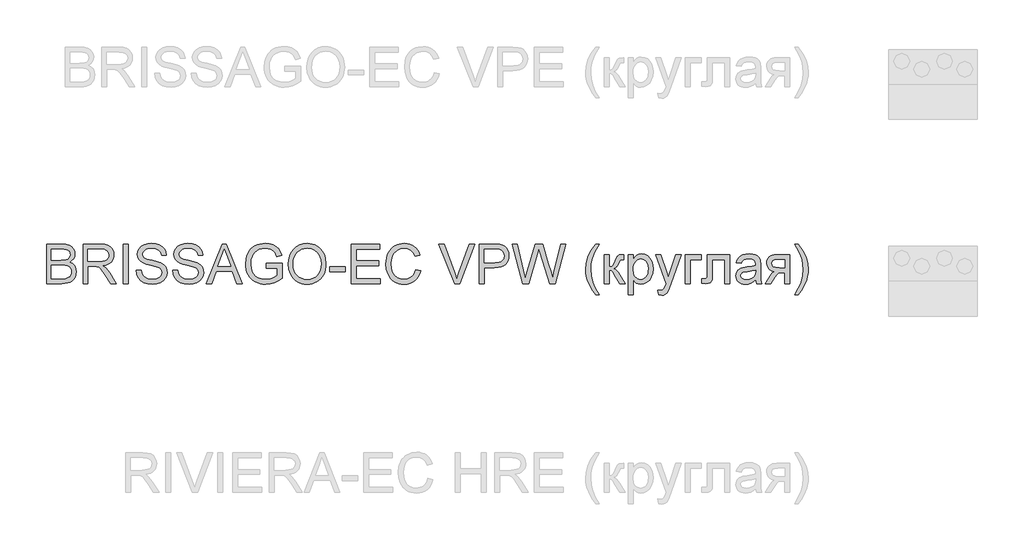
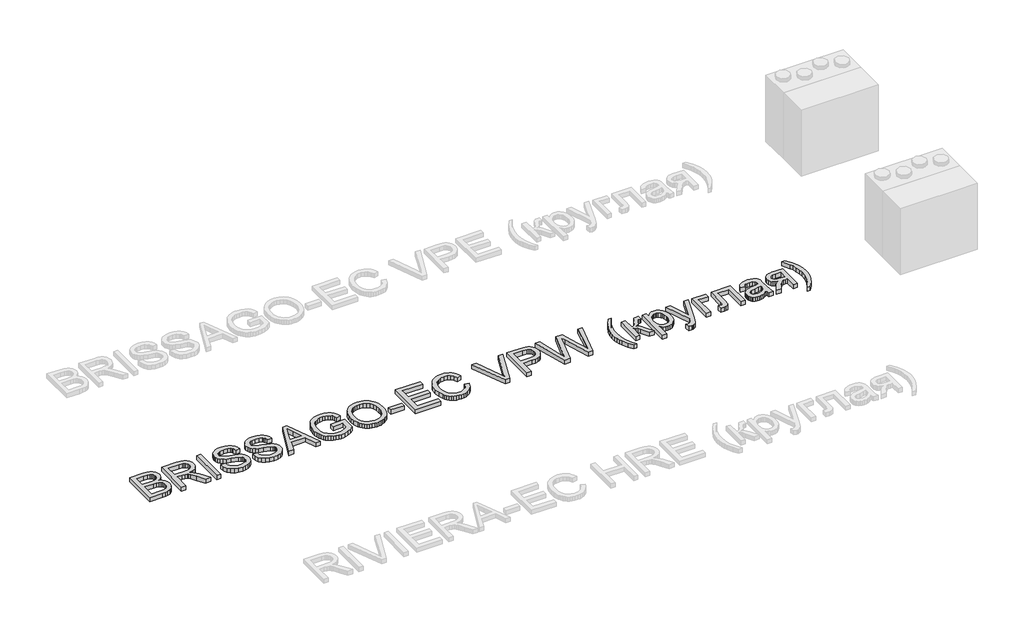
# One storey, part 5 of 28: 1 proxy.
"""IFC4 building model written with IfcOpenShell, lengths in millimetres."""

from ifc_helpers import new_model, si_unit, origin, origin_with_axes, place, context, project, spatial, polyline, outline, extrude, element, save

model = new_model("IFC4")

# Units and contexts
model_context = context("Model", 3, world=origin())
ifc_project = project(units=[si_unit("LENGTHUNIT", "METRE", prefix="MILLI")], contexts=[model_context])

# Site, building, storey
site = spatial("IfcSite", under=ifc_project)
building = spatial("IfcBuilding", under=site)
storey = spatial("IfcBuildingStorey", under=building, Name="Уровень 1", Elevation=0.0)

# Proxy
placement = place(None, origin())
element("IfcBuildingElementProxy", 1, Name="400 мм Arial", ObjectType="400 мм Arial", at=placement, inside=storey, context=model_context, shape_type="SweptSolid", body=[
    extrude(outline(polyline([(-29682.5724725, -12348.7253035), (-29682.5724725, -11946.9000629), (-29529.2392569, -11946.9000629), (-29487.0677175, -11949.8553816), (-29454.142279, -11958.7213376), (-29428.9055741, -11973.7186603), (-29409.8002358, -11995.0680788), (-29397.7704946, -12020.1821563), (-29393.7605808, -12046.4734562), (-29397.1328325, -12070.6678288), (-29407.2495873, -12093.4151988), (-29424.1844218, -12113.3176148), (-29448.0109124, -12128.977125), (-29419.5491087, -12143.8395576), (-29398.5185213, -12166.4520376), (-29385.5322869, -12195.3185115), (-29381.2035421, -12228.9429258), (-29384.1588608, -12256.9632711), (-29393.0248168, -12282.9480027), (-29406.2563059, -12305.0454479), (-29422.3082237, -12321.403934), (-29441.9653849, -12333.2497342), (-29466.0126047, -12341.809122), (-29495.2346978, -12346.9962581), (-29530.4164793, -12348.7253035), (-29682.5724725, -12348.7253035)]), holes=[polyline([(-29632.3443174, -12110.1415669), (-29540.6190733, -12110.1415669), (-29487.0554548, -12105.8250848), (-29468.3057358, -12098.3816057), (-29454.828992, -12087.2347813), (-29446.6987999, -12072.5562897), (-29443.9887359, -12054.5178092), (-29446.5148589, -12037.0066262), (-29454.093228, -12021.7517862), (-29466.3804867, -12009.8446722), (-29483.0332783, -12002.3766677), (-29508.5888143, -11998.4403304), (-29547.5843058, -11997.1282179), (-29632.3443174, -11997.1282179), (-29632.3443174, -12110.1415669)]), polyline([(-29632.3443174, -12298.4971484), (-29529.3373588, -12298.4971484), (-29492.0586499, -12296.5351111), (-29460.5189002, -12285.5967531), (-29448.9428801, -12276.1667113), (-29439.6232029, -12263.2785787), (-29433.4795736, -12247.5087039), (-29431.4316971, -12229.4334352), (-29433.8351928, -12208.439636), (-29441.04568, -12190.3888927), (-29453.6395069, -12176.2744869), (-29472.1930222, -12167.0896997), (-29498.4720594, -12162.0497164), (-29534.2424521, -12160.3697219), (-29632.3443174, -12160.3697219), (-29632.3443174, -12298.4971484)])]), origin_with_axes(), (0.0, 0.0, 1.0), 50.0),
    extrude(outline(polyline([(-29312.1398288, -12348.7253035), (-29312.1398288, -11946.9000629), (-29138.9900364, -11946.9000629), (-29092.4529641, -11949.6101269), (-29058.5955578, -11957.740319), (-29033.8493622, -11972.7499044), (-29014.6459221, -11996.0981484), (-29002.3218752, -12025.0504614), (-28998.2138596, -12056.872254), (-28999.9153139, -12077.5104339), (-29005.0196765, -12096.4563566), (-29013.5269477, -12113.7100222), (-29025.4371273, -12129.2714306), (-29040.9034995, -12142.6439411), (-29060.0793485, -12153.3309131), (-29082.9646743, -12161.3323465), (-29109.5594768, -12166.6482413), (-29081.011834, -12188.1325498), (-29040.2995599, -12239.8322329), (-28973.2959858, -12348.7253035), (-29031.6665957, -12348.7253035), (-29083.95489, -12265.4368198), (-29121.7241081, -12210.3035714), (-29135.7649376, -12194.2271282), (-29148.2606627, -12184.2575262), (-29172.1484669, -12174.6925943), (-29201.284721, -12172.9267607), (-29261.9116738, -12172.9267607), (-29261.9116738, -12348.7253035), (-29312.1398288, -12348.7253035)]), holes=[polyline([(-29261.9116738, -12122.6986056), (-29149.486936, -12122.6986056), (-29117.1991596, -12120.9205093), (-29092.1463957, -12115.5862204), (-29073.2863121, -12106.3401196), (-29059.5765764, -12092.8265876), (-29051.2256551, -12076.4803643), (-29048.4420147, -12058.7361894), (-29053.7517782, -12034.2352485), (-29069.6810686, -12014.4922481), (-29081.8426342, -12006.8954849), (-29097.0882772, -12001.4692255), (-29136.8317954, -11997.1282179), (-29261.9116738, -11997.1282179), (-29261.9116738, -12122.6986056)])]), origin_with_axes(), (0.0, 0.0, 1.0), 50.0),
    extrude(outline(polyline([(-28904.0360689, -12348.7253035), (-28904.0360689, -11946.9000629), (-28853.8079138, -11946.9000629), (-28853.8079138, -12348.7253035), (-28904.0360689, -12348.7253035)])), origin_with_axes(), (0.0, 0.0, 1.0), 50.0),
    extrude(outline(polyline([(-28772.1871618, -12210.597877), (-28721.9590067, -12210.597877), (-28716.1955221, -12238.4710695), (-28705.7721989, -12260.875083), (-28689.5118147, -12278.6560461), (-28666.2371472, -12292.6600874), (-28637.7876062, -12301.7467727), (-28606.0026018, -12304.7756678), (-28578.0190447, -12302.4825367), (-28553.5181039, -12295.6031434), (-28533.6647388, -12284.7138363), (-28519.6239094, -12270.390964), (-28511.2729881, -12253.9466388), (-28508.4893476, -12236.6929732), (-28510.5740123, -12219.880766), (-28516.8280062, -12205.3494272), (-28529.5321978, -12192.951804), (-28550.9674554, -12182.5407435), (-28624.102396, -12163.3618288), (-28672.1109964, -12150.6699), (-28702.829143, -12138.5911078), (-28727.8328559, -12121.6930615), (-28745.5525053, -12101.2142971), (-28756.1107186, -12077.596273), (-28759.630123, -12051.2804476), (-28755.2768527, -12021.8621508), (-28742.2170419, -11994.4304166), (-28720.7940471, -11971.1802746), (-28691.3512247, -11954.3067537), (-28656.0100277, -11944.042846), (-28616.8919089, -11940.6215435), (-28574.511903, -11944.2022616), (-28537.4293979, -11954.9444158), (-28506.9687687, -11972.6272771), (-28484.4543906, -11997.0301161), (-28470.2050947, -12026.632354), (-28464.539712, -12059.9134118), (-28514.767867, -12059.9134118), (-28523.9894424, -12029.9432919), (-28532.3526264, -12018.0852289), (-28543.217408, -12008.3118306), (-28573.2611043, -11995.2152316), (-28614.9298716, -11990.8496986), (-28657.5796576, -11995.1661806), (-28673.8829613, -12000.5617832), (-28686.8385389, -12008.1156269), (-28703.7611107, -12027.1719142), (-28709.4019679, -12049.8089197), (-28705.4043169, -12069.1104617), (-28693.4113639, -12084.6350819), (-28665.0599248, -12098.5164958), (-28611.3982044, -12112.6922154), (-28556.0197014, -12126.1566964), (-28522.5179144, -12137.9043948), (-28493.8844324, -12156.1268163), (-28473.9084401, -12178.6166689), (-28462.1730045, -12205.128698), (-28458.2611926, -12235.417649), (-28462.7616156, -12266.3810502), (-28476.2628849, -12295.5050415), (-28498.2131772, -12320.5700681), (-28528.0606698, -12339.3565753), (-28563.9536898, -12351.092011), (-28604.0405645, -12355.0038229), (-28653.2509127, -12350.7854426), (-28693.7547204, -12338.130302), (-28726.0179714, -12316.98935), (-28750.5066495, -12287.3135357), (-28766.2274735, -12251.1629983), (-28772.1871618, -12210.597877)])), origin_with_axes(), (0.0, 0.0, 1.0), 50.0),
    extrude(outline(polyline([(-28401.7545181, -12210.597877), (-28351.526363, -12210.597877), (-28345.7628784, -12238.4710695), (-28335.3395552, -12260.875083), (-28319.0791711, -12278.6560461), (-28295.8045035, -12292.6600874), (-28267.3549625, -12301.7467727), (-28235.5699582, -12304.7756678), (-28207.5864011, -12302.4825367), (-28183.0854602, -12295.6031434), (-28163.2320952, -12284.7138363), (-28149.1912657, -12270.390964), (-28140.8403444, -12253.9466388), (-28138.056704, -12236.6929732), (-28140.1413686, -12219.880766), (-28146.3953625, -12205.3494272), (-28159.0995541, -12192.951804), (-28180.5348117, -12182.5407435), (-28253.6697523, -12163.3618288), (-28301.6783527, -12150.6699), (-28332.3964993, -12138.5911078), (-28357.4002122, -12121.6930615), (-28375.1198617, -12101.2142971), (-28385.6780749, -12077.596273), (-28389.1974793, -12051.2804476), (-28384.8442091, -12021.8621508), (-28371.7843982, -11994.4304166), (-28350.3614034, -11971.1802746), (-28320.918581, -11954.3067537), (-28285.577384, -11944.042846), (-28246.4592652, -11940.6215435), (-28204.0792594, -11944.2022616), (-28166.9967543, -11954.9444158), (-28136.5361251, -11972.6272771), (-28114.0217469, -11997.0301161), (-28099.772451, -12026.632354), (-28094.1070683, -12059.9134118), (-28144.3352234, -12059.9134118), (-28153.5567987, -12029.9432919), (-28161.9199827, -12018.0852289), (-28172.7847643, -12008.3118306), (-28202.8284606, -11995.2152316), (-28244.4972279, -11990.8496986), (-28287.1470139, -11995.1661806), (-28303.4503176, -12000.5617832), (-28316.4058952, -12008.1156269), (-28333.328467, -12027.1719142), (-28338.9693243, -12049.8089197), (-28334.9716733, -12069.1104617), (-28322.9787202, -12084.6350819), (-28294.6272811, -12098.5164958), (-28240.9655608, -12112.6922154), (-28185.5870577, -12126.1566964), (-28152.0852707, -12137.9043948), (-28123.4517888, -12156.1268163), (-28103.4757964, -12178.6166689), (-28091.7403608, -12205.128698), (-28087.8285489, -12235.417649), (-28092.328972, -12266.3810502), (-28105.8302412, -12295.5050415), (-28127.7805336, -12320.5700681), (-28157.6280261, -12339.3565753), (-28193.5210461, -12351.092011), (-28233.6079208, -12355.0038229), (-28282.8182691, -12350.7854426), (-28323.3220767, -12338.130302), (-28355.5853277, -12316.98935), (-28380.0740059, -12287.3135357), (-28395.7948298, -12251.1629983), (-28401.7545181, -12210.597877)])), origin_with_axes(), (0.0, 0.0, 1.0), 50.0),
    extrude(outline(polyline([(-28059.2809061, -12348.7253035), (-27898.8843562, -11946.9000629), (-27856.1119429, -11946.9000629), (-27695.715393, -12348.7253035), (-27748.7885021, -12348.7253035), (-27794.798277, -12223.1549158), (-27960.2961239, -12223.1549158), (-28006.2077969, -12348.7253035), (-28059.2809061, -12348.7253035)]), holes=[polyline([(-27941.8529732, -12172.9267607), (-27813.1433258, -12172.9267607), (-27849.3429142, -12074.1381823), (-27877.4981495, -11997.1282179), (-27902.5141252, -12065.5052181), (-27941.8529732, -12172.9267607)])]), origin_with_axes(), (0.0, 0.0, 1.0), 50.0),
    extrude(outline(polyline([(-27453.6980911, -12191.7623189), (-27453.6980911, -12141.5341638), (-27290.4565871, -12141.5341638), (-27290.4565871, -12291.7281197), (-27330.1265289, -12319.3192693), (-27371.0472695, -12339.1113207), (-27413.120707, -12351.0306973), (-27456.2487396, -12355.0038229), (-27485.099885, -12353.424996), (-27512.5959985, -12348.6885153), (-27538.7370799, -12340.7943808), (-27563.5231294, -12329.7425925), (-27586.1540034, -12315.6986973), (-27605.8295588, -12298.8282422), (-27622.5497955, -12279.131227), (-27636.3147135, -12256.6076519), (-27647.0660648, -12231.9779523), (-27654.7456014, -12205.9625639), (-27659.3533234, -12178.5614866), (-27660.8892308, -12149.7747205), (-27654.7701269, -12093.1822069), (-27647.1212471, -12066.3666751), (-27636.4128153, -12040.5382934), (-27622.834904, -12016.8313645), (-27606.5775855, -11996.3801912), (-27587.6408598, -11979.1847736), (-27566.0247269, -11965.2451117), (-27542.1982364, -11954.4723006), (-27516.6304377, -11946.7774355), (-27489.3213309, -11942.1605165), (-27460.2709161, -11940.6215435), (-27418.8964543, -11944.1899988), (-27381.6913219, -11954.8953649), (-27350.3600386, -11971.9650895), (-27326.6071245, -11994.6266204), (-27309.0346278, -12023.9713409), (-27296.2445971, -12061.0906342), (-27342.5486776, -12074.1381823), (-27352.8861617, -12047.6629413), (-27365.4554632, -12027.686949), (-27382.0837293, -12012.6283127), (-27404.5981075, -12000.9051398), (-27431.4412304, -11993.3635589), (-27461.055731, -11990.8496986), (-27495.7224777, -11993.5597626), (-27525.3615037, -12001.6899547), (-27549.8624446, -12014.222468), (-27569.1149357, -12030.1394956), (-27583.8915292, -12048.6194345), (-27594.9647772, -12068.8406815), (-27606.7370011, -12106.7570525), (-27610.6610757, -12147.7145813), (-27605.9399234, -12195.7477071), (-27591.7764666, -12235.2704962), (-27568.5999009, -12266.0009055), (-27536.839422, -12287.6568923), (-27499.6710777, -12300.4959739), (-27460.2709161, -12304.7756678), (-27425.481542, -12301.550569), (-27391.5505594, -12291.8752725), (-27362.0832115, -12278.5456815), (-27340.6847422, -12264.3576992), (-27340.6847422, -12191.7623189), (-27453.6980911, -12191.7623189)])), origin_with_axes(), (0.0, 0.0, 1.0), 50.0),
    extrude(outline(polyline([(-27227.6713932, -12153.1101839), (-27224.3236671, -12105.9783689), (-27214.2804886, -12064.2544193), (-27197.5418578, -12027.938335), (-27174.1077747, -11997.0301161), (-27145.3823223, -11972.3513656), (-27112.7695834, -11954.7236866), (-27076.2695581, -11944.1470793), (-27035.8822464, -11940.6215435), (-27008.8490511, -11942.2770125), (-26983.1770192, -11947.2434194), (-26958.8661507, -11955.5207643), (-26935.9164456, -11967.1090471), (-26914.9716973, -11981.65878), (-26896.6756994, -11998.8204751), (-26881.0284519, -12018.5941324), (-26868.0299548, -12040.9797518), (-26857.815098, -12065.4684299), (-26850.5187718, -12091.5512634), (-26844.6817108, -12148.4993962), (-26846.2176181, -12178.1568164), (-26850.8253401, -12206.2078185), (-26858.5048768, -12232.6524026), (-26869.2562281, -12257.4905687), (-26882.8249423, -12280.0662604), (-26898.9565678, -12299.7234217), (-26917.6511045, -12316.4620525), (-26938.9085525, -12330.2821528), (-26961.8919801, -12341.0978834), (-26985.7644559, -12348.8234053), (-27010.5259799, -12353.4587185), (-27036.176552, -12355.0038229), (-27063.6818625, -12353.2962373), (-27089.6911196, -12348.1734805), (-27114.2043232, -12339.6355525), (-27137.2214734, -12327.6824533), (-27158.1416961, -12312.7771012), (-27176.3641176, -12295.3824142), (-27191.8887378, -12275.4983923), (-27204.7155567, -12253.1250357), (-27221.9324341, -12204.5032986), (-27227.6713932, -12153.1101839)]), holes=[polyline([(-27177.4432382, -12153.6006932), (-27174.9324435, -12186.9001452), (-27167.4000597, -12216.4594635), (-27154.8460866, -12242.2786482), (-27137.2705243, -12264.3576992), (-27115.9057774, -12282.0405605), (-27091.9842507, -12294.6711756), (-27065.5059441, -12302.2495447), (-27036.4708576, -12304.7756678), (-27006.9391304, -12302.2250193), (-26980.1481241, -12294.5730738), (-26956.0978387, -12281.8198313), (-26934.7882741, -12263.9652918), (-26917.3414705, -12241.4202568), (-26904.8794679, -12214.595528), (-26897.4022664, -12183.4911053), (-26894.9098659, -12148.1069888), (-26899.177297, -12103.6423183), (-26911.9795904, -12065.2109125), (-26932.9856524, -12033.7815274), (-26961.864389, -12010.3229188), (-26996.7028139, -11995.7180036), (-27035.5879408, -11990.8496986), (-27063.6144175, -11993.1949463), (-27089.6175432, -12000.2306894), (-27113.5973179, -12011.956928), (-27135.5537416, -12028.3736621), (-27153.8803964, -12050.2718378), (-27166.970864, -12078.4424016), (-27174.8251446, -12112.8853534), (-27177.4432382, -12153.6006932)])]), origin_with_axes(), (0.0, 0.0, 1.0), 50.0),
    extrude(outline(polyline([(-26807.0105945, -12229.4334352), (-26807.0105945, -12179.2052801), (-26650.0476099, -12179.2052801), (-26650.0476099, -12229.4334352), (-26807.0105945, -12229.4334352)])), origin_with_axes(), (0.0, 0.0, 1.0), 50.0),
    extrude(outline(polyline([(-26587.262416, -12348.7253035), (-26587.262416, -11946.9000629), (-26298.4505244, -11946.9000629), (-26298.4505244, -11997.1282179), (-26537.034261, -11997.1282179), (-26537.034261, -12116.4200862), (-26311.0075631, -12116.4200862), (-26311.0075631, -12166.6482413), (-26537.034261, -12166.6482413), (-26537.034261, -12298.4971484), (-26292.172005, -12298.4971484), (-26292.172005, -12348.7253035), (-26587.262416, -12348.7253035)])), origin_with_axes(), (0.0, 0.0, 1.0), 50.0),
    extrude(outline(polyline([(-25934.2964001, -12205.8889875), (-25884.068245, -12218.8384337), (-25894.0071902, -12250.0746808), (-25907.2448107, -12277.3684591), (-25923.7811064, -12300.7197688), (-25943.6160773, -12320.1286097), (-25966.3021336, -12335.3865155), (-25991.3916857, -12346.2850196), (-26018.8847335, -12352.824122), (-26048.781277, -12355.0038229), (-26079.4105187, -12353.3544852), (-26107.0415223, -12348.4064724), (-26131.6742875, -12340.1597843), (-26153.3088145, -12328.6144211), (-26172.2424745, -12313.9420608), (-26188.7726389, -12296.3143819), (-26202.8993075, -12275.7313843), (-26214.6224804, -12252.1930679), (-26230.404618, -12200.3217066), (-26235.6653305, -12144.7715253), (-26229.7179049, -12086.1801862), (-26222.2836229, -12059.882755), (-26211.8756282, -12035.5841492), (-26198.7269125, -12013.6859734), (-26183.0704679, -11994.5898322), (-26164.9062944, -11978.2957255), (-26144.234392, -11964.8036533), (-26121.7568021, -11954.2239803), (-26098.1755662, -11946.6670709), (-26047.7021564, -11940.6215435), (-26018.9736383, -11942.5774494), (-25992.6302218, -11948.4451672), (-25968.6719068, -11958.224697), (-25947.0986935, -11971.9160385), (-25928.266201, -11989.1574414), (-25912.5300487, -12009.5871548), (-25899.8902365, -12033.2051789), (-25890.3467644, -12060.0115137), (-25940.5749194, -12071.9799412), (-25957.9880005, -12035.3511572), (-25981.7777029, -12010.224817), (-26012.2383321, -11995.6934782), (-26049.6641937, -11990.8496986), (-26092.804489, -11996.2207757), (-26111.486763, -12002.9346221), (-26128.2437879, -12012.3340071), (-26155.1359618, -12037.4971355), (-26172.634882, -12070.0179039), (-26182.2366021, -12106.781578), (-26185.4371754, -12144.6734235), (-26181.6479909, -12191.0756058), (-26170.2804372, -12231.1992687), (-26150.9053188, -12263.5115707), (-26123.09344, -12286.4796699), (-26089.7510685, -12300.2016683), (-26053.7844721, -12304.7756678), (-26031.94761, -12303.2183007), (-26011.8581874, -12298.5461993), (-25993.5162042, -12290.7593638), (-25976.9216606, -12279.857794), (-25962.4669638, -12265.8905409), (-25950.5445215, -12248.9066554), (-25941.1543336, -12228.9061376), (-25934.2964001, -12205.8889875)])), origin_with_axes(), (0.0, 0.0, 1.0), 50.0),
    extrude(outline(polyline([(-25539.33829, -12348.7253035), (-25699.2443306, -11946.9000629), (-25645.4845084, -11946.9000629), (-25538.4553733, -12236.3986676), (-25516.774861, -12301.6364081), (-25495.3886543, -12236.3986676), (-25388.0652136, -11946.9000629), (-25334.3053914, -11946.9000629), (-25487.4424033, -12348.7253035), (-25539.33829, -12348.7253035)])), origin_with_axes(), (0.0, 0.0, 1.0), 50.0),
    extrude(outline(polyline([(-25287.6089035, -12348.7253035), (-25287.6089035, -11946.9000629), (-25138.6902718, -11946.9000629), (-25078.6519302, -11950.7260356), (-25051.8823837, -11957.8752091), (-25029.8462522, -11969.5125428), (-25012.1020773, -11986.1653345), (-24998.2084006, -12008.3608815), (-24989.2320799, -12034.5418169), (-24986.239973, -12063.1507733), (-24988.2602583, -12087.8172611), (-24994.3211142, -12110.5094489), (-25004.4225406, -12131.2273366), (-25018.5645377, -12149.9709242), (-25037.97951, -12165.5078071), (-25063.8998622, -12176.6055807), (-25096.3255944, -12183.2642448), (-25135.2567065, -12185.4837995), (-25237.3807484, -12185.4837995), (-25237.3807484, -12348.7253035), (-25287.6089035, -12348.7253035)]), holes=[polyline([(-25237.3807484, -12135.2556444), (-25132.3136506, -12135.2556444), (-25087.7754037, -12130.6448567), (-25071.171663, -12124.8813721), (-25058.3448441, -12116.8124937), (-25048.7737808, -12106.6528193), (-25041.9373071, -12094.6169467), (-25036.4681281, -12064.9166069), (-25039.6932269, -12042.3531779), (-25049.3685234, -12023.321416), (-25064.2922697, -12008.9985437), (-25083.2627179, -12000.5617832), (-25133.490873, -11997.1282179), (-25237.3807484, -11997.1282179), (-25237.3807484, -12135.2556444)])]), origin_with_axes(), (0.0, 0.0, 1.0), 50.0),
    extrude(outline(polyline([(-24845.2675925, -12348.7253035), (-24954.8473761, -11946.9000629), (-24903.0495912, -11946.9000629), (-24839.4795824, -12210.9902845), (-24819.8592093, -12292.5129346), (-24798.8654101, -12220.4080635), (-24719.2066955, -11946.9000629), (-24644.5511759, -11946.9000629), (-24586.6710753, -12145.1639328), (-24561.8758289, -12218.7403318), (-24543.6043564, -12292.5129346), (-24524.5725945, -12213.3447292), (-24460.4139746, -11946.9000629), (-24408.6161897, -11946.9000629), (-24518.2940752, -12348.7253035), (-24571.9557955, -12348.7253035), (-24668.2918273, -12038.7234089), (-24681.7317829, -11995.4604862), (-24696.8394702, -12047.5525767), (-24784.6406397, -12348.7253035), (-24845.2675925, -12348.7253035)])), origin_with_axes(), (0.0, 0.0, 1.0), 50.0),
    extrude(outline(polyline([(-24107.2472592, -12461.7386524), (-24146.1691743, -12407.1204388), (-24178.5673153, -12343.9183121), (-24191.3144265, -12309.864702), (-24200.4195059, -12275.1979554), (-24205.8825535, -12239.918072), (-24207.7035694, -12204.025052), (-24202.2589158, -12141.6077402), (-24185.9249552, -12081.8882296), (-24153.5022887, -12014.2469935), (-24107.2472592, -11946.9000629), (-24069.5761429, -11946.9000629), (-24116.5669364, -12026.4606757), (-24132.6065914, -12064.2298939), (-24144.8202737, -12103.5687419), (-24154.3116291, -12153.8214224), (-24157.4754143, -12204.3193576), (-24151.9817098, -12268.7109695), (-24135.5005964, -12333.0780559), (-24108.0320741, -12397.4206169), (-24069.5761429, -12461.7386524), (-24107.2472592, -12461.7386524)])), origin_with_axes(), (0.0, 0.0, 1.0), 50.0),
    extrude(outline(polyline([(-24019.3479878, -12053.6348924), (-23969.1198328, -12053.6348924), (-23969.1198328, -12179.2052801), (-23948.6901193, -12176.9489372), (-23935.4708929, -12170.1799085), (-23923.7722455, -12152.5215727), (-23907.9042688, -12117.5973086), (-23884.9974832, -12072.2251959), (-23875.5551787, -12063.0649342), (-23864.7884989, -12057.4608652), (-23828.0493503, -12053.6348924), (-23818.4353675, -12053.6348924), (-23818.4353675, -12104.1573531), (-23831.973425, -12103.8630475), (-23847.6697234, -12105.1874227), (-23856.4988913, -12109.1605482), (-23873.7648196, -12142.2208768), (-23884.3720838, -12164.2570084), (-23894.0228548, -12177.9790068), (-23905.7092395, -12187.1392685), (-23922.4233448, -12195.4901897), (-23906.5063172, -12202.5596554), (-23890.7364423, -12215.0369864), (-23875.1137203, -12232.9221828), (-23859.638151, -12256.2152444), (-23805.8783288, -12348.7253035), (-23862.9736144, -12348.7253035), (-23915.6543161, -12258.1772817), (-23929.8790866, -12234.081011), (-23942.1418198, -12219.8685033), (-23954.5271803, -12212.9155336), (-23969.1198328, -12210.597877), (-23969.1198328, -12348.7253035), (-24019.3479878, -12348.7253035), (-24019.3479878, -12053.6348924)])), origin_with_axes(), (0.0, 0.0, 1.0), 50.0),
    extrude(outline(polyline([(-23774.4857318, -12461.7386524), (-23774.4857318, -12053.6348924), (-23724.2575768, -12053.6348924), (-23724.2575768, -12102.8820288), (-23707.8745653, -12078.5895544), (-23689.5295164, -12061.237787), (-23668.1433098, -12050.8267265), (-23642.6368248, -12047.356373), (-23608.6690539, -12052.2124154), (-23578.9687141, -12066.7805424), (-23554.7866043, -12090.1778373), (-23537.3735232, -12121.5213832), (-23526.8520982, -12158.530312), (-23523.3449565, -12198.923755), (-23527.3058193, -12241.8801093), (-23539.1884077, -12280.2992524), (-23558.6125771, -12312.2314095), (-23585.1981826, -12335.7268063), (-23616.1615839, -12350.1845687), (-23648.7191404, -12355.0038229), (-23671.809867, -12351.778724), (-23692.4235215, -12342.1034276), (-23710.0695945, -12327.4985123), (-23724.2575768, -12309.4845573), (-23724.2575768, -12461.7386524), (-23774.4857318, -12461.7386524)]), holes=[polyline([(-23724.2575768, -12203.5345427), (-23718.825186, -12248.5632989), (-23712.0346975, -12266.0009055), (-23702.5280136, -12280.0539977), (-23678.4807938, -12298.5952503), (-23664.7189415, -12303.2305634), (-23649.7982609, -12304.7756678), (-23634.6629825, -12303.1753811), (-23620.6497442, -12298.3745211), (-23607.7585459, -12290.3730877), (-23595.9893878, -12279.1710809), (-23586.1822669, -12264.6090853), (-23579.1771806, -12246.5276852), (-23574.9741288, -12224.9268807), (-23573.5731115, -12199.8066718), (-23579.0422905, -12155.0231703), (-23585.8787643, -12137.4506736), (-23595.4498275, -12123.0910131), (-23619.4602591, -12103.9611493), (-23633.0657615, -12099.1786834), (-23647.7381218, -12097.5845281), (-23662.3644968, -12099.279851), (-23676.1263491, -12104.3658195), (-23701.0564856, -12124.7096939), (-23711.206963, -12139.8081841), (-23718.457304, -12157.978489), (-23722.8075086, -12179.2206085), (-23724.2575768, -12203.5345427)])]), origin_with_axes(), (0.0, 0.0, 1.0), 50.0),
    extrude(outline(polyline([(-23466.838282, -12461.7386524), (-23473.1168014, -12413.3744328), (-23447.6103164, -12417.7890167), (-23434.1948863, -12416.4033278), (-23423.7715631, -12412.2462613), (-23409.1543852, -12396.7952175), (-23395.420124, -12359.8108143), (-23391.4960494, -12347.6461829), (-23498.2308789, -12053.6348924), (-23445.2558716, -12053.6348924), (-23388.6510953, -12217.4650076), (-23368.9326204, -12282.9970537), (-23349.2141454, -12225.1169531), (-23291.0397392, -12053.6348924), (-23238.4571394, -12053.6348924), (-23341.1697925, -12355.7886378), (-23367.8534998, -12421.3206838), (-23381.5141846, -12442.2409066), (-23396.9897539, -12456.7354573), (-23414.9669207, -12465.1967431), (-23436.1323981, -12468.0171718), (-23466.838282, -12461.7386524)])), origin_with_axes(), (0.0, 0.0, 1.0), 50.0),
    extrude(outline(polyline([(-23196.8619485, -12053.6348924), (-23033.6204445, -12053.6348924), (-23033.6204445, -12103.8630475), (-23146.6337934, -12103.8630475), (-23146.6337934, -12348.7253035), (-23196.8619485, -12348.7253035), (-23196.8619485, -12053.6348924)])), origin_with_axes(), (0.0, 0.0, 1.0), 50.0),
    extrude(outline(polyline([(-22970.8352506, -12053.6348924), (-22744.8085528, -12053.6348924), (-22744.8085528, -12348.4309979), (-22795.0367079, -12348.4309979), (-22795.0367079, -12103.8630475), (-22920.6070956, -12103.8630475), (-22920.6070956, -12244.6392243), (-22923.9916099, -12309.5826592), (-22930.331443, -12324.2856763), (-22942.5819134, -12337.0021306), (-22961.1722169, -12345.7945102), (-22986.5315491, -12348.7253035), (-23027.3419251, -12346.174655), (-23027.3419251, -12298.4971484), (-23004.8765979, -12298.4971484), (-22982.1660161, -12295.4069396), (-22973.0915936, -12285.5967531), (-22970.8352506, -12241.7942702), (-22970.8352506, -12053.6348924)])), origin_with_axes(), (0.0, 0.0, 1.0), 50.0),
    extrude(outline(polyline([(-22481.1107387, -12311.0541872), (-22505.1089075, -12331.6310534), (-22529.8183148, -12345.0955344), (-22555.8030464, -12352.5267508), (-22583.627188, -12355.0038229), (-22605.9913476, -12353.5139008), (-22625.6025236, -12349.0441345), (-22642.4607161, -12341.5945241), (-22656.5659249, -12331.1650696), (-22667.7035523, -12318.4179584), (-22675.6590005, -12304.0153783), (-22680.4322693, -12287.9573292), (-22682.023359, -12270.2438112), (-22679.6198633, -12249.4216902), (-22672.4093762, -12230.5125557), (-22661.2870772, -12214.3257479), (-22647.1481458, -12201.6706073), (-22630.5321424, -12192.1056754), (-22611.9786271, -12185.1894939), (-22568.5195007, -12177.6356502), (-22517.1631742, -12169.6893991), (-22481.4050443, -12160.3697219), (-22481.1107387, -12149.1861093), (-22484.5688294, -12126.769833), (-22494.9431017, -12112.1036042), (-22518.1441928, -12101.2142971), (-22550.4687575, -12097.5845281), (-22580.3898264, -12100.0002865), (-22601.2855238, -12107.2475618), (-22615.5348197, -12120.6507292), (-22625.5166845, -12141.5341638), (-22675.7448396, -12135.2556444), (-22667.0260363, -12107.7871221), (-22654.0152764, -12086.2047117), (-22635.4985493, -12069.6990729), (-22610.2618444, -12057.4608652), (-22579.396545, -12049.8824961), (-22543.9940344, -12047.356373), (-22510.0385262, -12049.5881905), (-22483.1218269, -12056.2836428), (-22462.8270035, -12066.3513467), (-22448.7371231, -12078.699919), (-22439.3929204, -12093.9670218), (-22433.3351302, -12112.7903172), (-22430.8825836, -12156.7399529), (-22430.8825836, -12219.2308412), (-22428.3319351, -12306.4924504), (-22418.3255448, -12348.7253035), (-22468.5536999, -12348.7253035), (-22476.5980529, -12331.2631714), (-22481.1107387, -12311.0541872)]), holes=[polyline([(-22481.1107387, -12210.597877), (-22514.8577804, -12218.961061), (-22562.1428795, -12225.9998699), (-22605.3567512, -12234.1423247), (-22616.6016775, -12239.7096056), (-22624.9280733, -12247.3860765), (-22630.0784212, -12256.5831264), (-22631.7952039, -12266.712144), (-22628.0550703, -12281.648153), (-22616.8346694, -12293.8863607), (-22598.379256, -12302.053341), (-22572.9340847, -12304.7756678), (-22545.9560717, -12301.7712981), (-22522.1173184, -12292.7581893), (-22502.7912509, -12279.4776492), (-22489.3512954, -12263.6709862), (-22483.391607, -12247.3860765), (-22481.4050443, -12224.8226475), (-22481.1107387, -12210.597877)])]), origin_with_axes(), (0.0, 0.0, 1.0), 50.0),
    extrude(outline(polyline([(-22135.7921725, -12053.6348924), (-22135.7921725, -12348.7253035), (-22186.0203276, -12348.7253035), (-22186.0203276, -12235.7119545), (-22213.390748, -12235.7119545), (-22235.2184131, -12237.3061099), (-22250.6694569, -12242.0885758), (-22265.556415, -12255.9945152), (-22285.6918228, -12284.959091), (-22325.7173839, -12348.7253035), (-22383.7936882, -12348.7253035), (-22333.3693294, -12268.0855701), (-22311.100206, -12239.1455198), (-22290.5969161, -12226.2941755), (-22324.932569, -12215.7727504), (-22338.2744227, -12206.9619766), (-22349.0656279, -12195.7844953), (-22363.3394493, -12169.1988898), (-22368.0973897, -12138.8854134), (-22366.4725776, -12120.797882), (-22361.5981412, -12104.5007096), (-22353.4740804, -12089.9938963), (-22342.1003954, -12077.277442), (-22327.6487644, -12066.9338265), (-22310.2908656, -12059.5455298), (-22290.026699, -12055.1125517), (-22266.8562647, -12053.6348924), (-22135.7921725, -12053.6348924)]), holes=[polyline([(-22186.0203276, -12103.8630475), (-22252.2390867, -12103.8630475), (-22286.4398496, -12106.7693152), (-22305.8517562, -12115.4881185), (-22314.864865, -12128.106471), (-22317.8692347, -12142.7113862), (-22313.442388, -12161.8535127), (-22300.161848, -12175.1340527), (-22275.6241189, -12182.8963628), (-22237.4257051, -12185.4837995), (-22186.0203276, -12185.4837995), (-22186.0203276, -12103.8630475)])]), origin_with_axes(), (0.0, 0.0, 1.0), 50.0),
    extrude(outline(polyline([(-22047.8929011, -12461.7386524), (-22085.5640175, -12461.7386524), (-22047.1080862, -12397.4206169), (-22019.6395639, -12333.0780559), (-22003.1584505, -12268.7109695), (-21997.6647461, -12204.3193576), (-22000.8285312, -12154.1893044), (-22010.3198867, -12104.4516587), (-22022.3128397, -12065.0392343), (-22038.2789183, -12027.2454906), (-22085.5640175, -11946.9000629), (-22047.8929011, -11946.9000629), (-22001.6378716, -12014.2469935), (-21969.2152051, -12081.8882296), (-21952.8812445, -12141.6077402), (-21947.436591, -12204.025052), (-21949.2668039, -12239.918072), (-21954.7574427, -12275.1979554), (-21963.9085073, -12309.864702), (-21976.7199978, -12343.9183121), (-22009.1549271, -12407.1204388), (-22047.8929011, -12461.7386524)])), origin_with_axes(), (0.0, 0.0, 1.0), 50.0),
])

save(model, "model.ifc")
